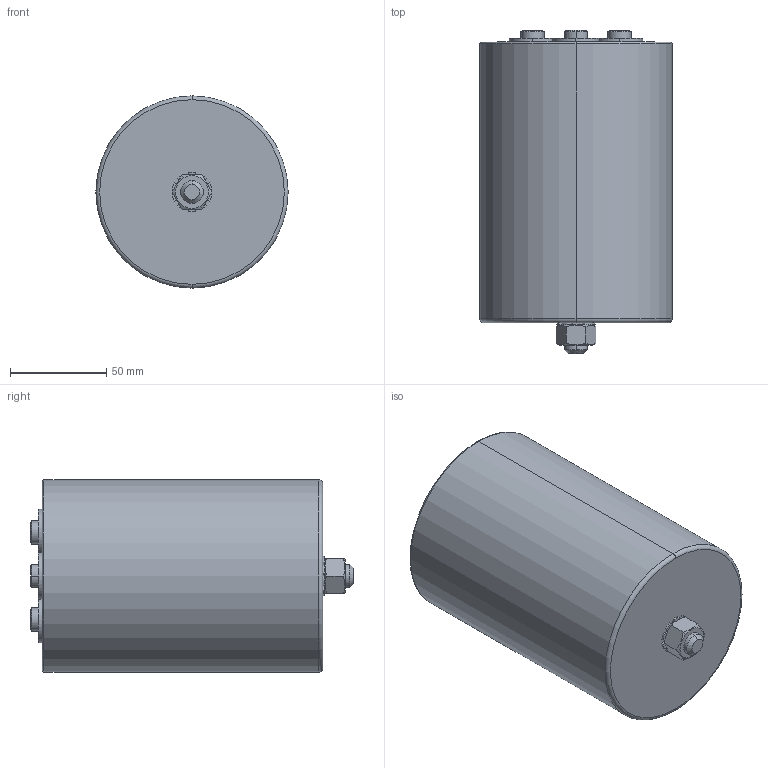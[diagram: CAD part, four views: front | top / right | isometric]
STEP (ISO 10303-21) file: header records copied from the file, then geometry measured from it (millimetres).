
FILE_DESCRIPTION (( 'STEP AP214' ), '1' );
FILE_NAME ('B25967 Series ¦µ100 Hc146 Ht152.STEP', '2025-08-20T02:06:37', ( '' ), ( '' ), 'SwSTEP 2.0', 'SolidWorks 2019', '' );
FILE_SCHEMA (( 'AUTOMOTIVE_DESIGN' ));
Length unit declared in the file: millimetre
Products named in the file (1): B25967 Series 朴100 Hc146 Ht152
Bounding box: 100 x 168 x 100 mm (x, y, z)
Volume: 1150398.2 mm3; surface area: 66065.8 mm2
Topology: 1 solids, 2 shells, 162 faces, 379 edges, 230 vertices
Faces by surface type: cylinder 63, plane 63, cone 30, torus 6
Entity records: 4743 total; most frequent: CARTESIAN_POINT 896, DIRECTION 885, ORIENTED_EDGE 742, EDGE_CURVE 371, AXIS2_PLACEMENT_3D 363, VERTEX_POINT 230, CIRCLE 200, EDGE_LOOP 181
